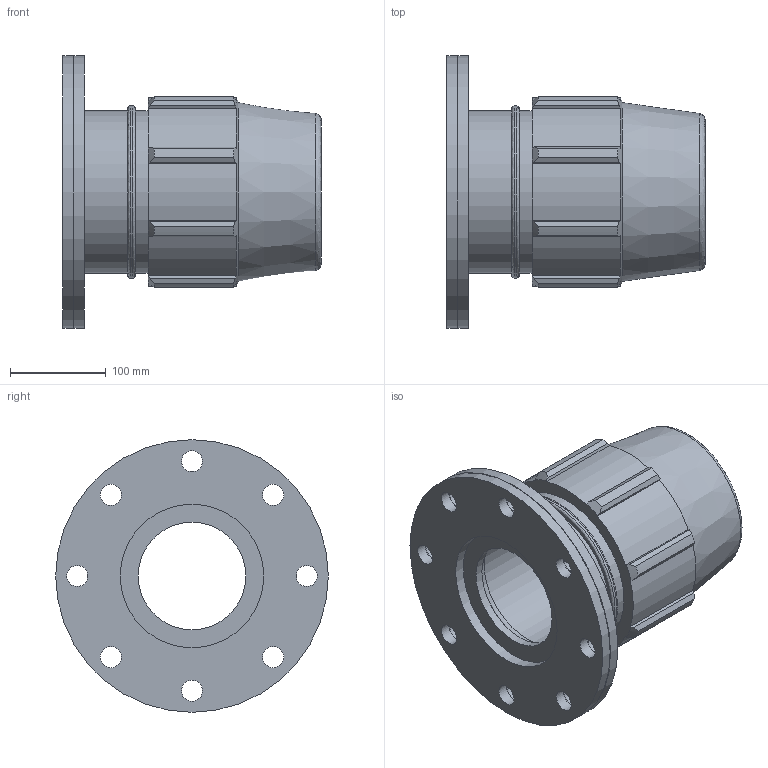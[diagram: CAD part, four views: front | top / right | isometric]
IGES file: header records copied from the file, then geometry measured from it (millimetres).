
Global section: file name: 072200125060_182200125060_0722061250600A.ipt; native system: Autodesk Inventor 2015; preprocessor: unknown; author: KIM; date: 20170606.172339; units: millimetre
Bounding box: 270 x 285 x 285 mm (x, y, z)
Volume: 4490963.1 mm3; surface area: 417162.3 mm2
Topology: 1 solids, 1 shells, 116 faces, 342 edges, 235 vertices
Faces by surface type: revolution 42, plane 41, cylinder 21, cone 12
Full cylindrical faces by diameter (mm): 169.6 x2, 180.2 x1, 285 x2
